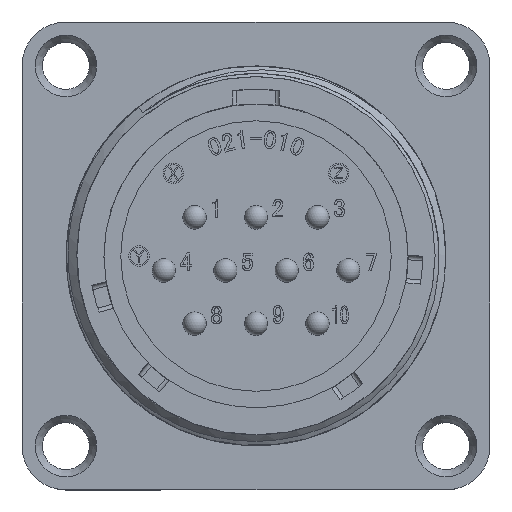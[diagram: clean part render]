
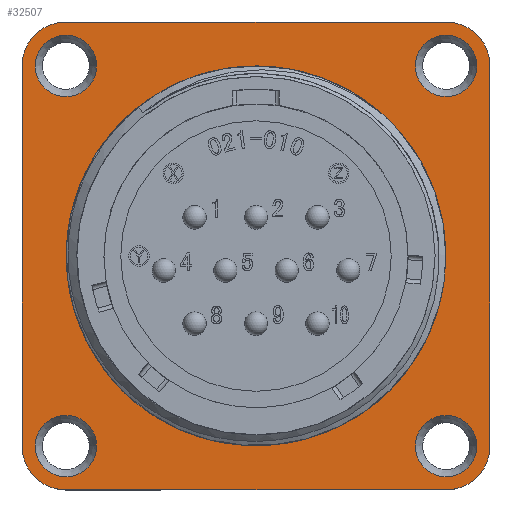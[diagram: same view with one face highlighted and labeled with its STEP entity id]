
A CAD part, top view. The second image highlights one B-rep face of the part: STEP entity #32507.
In plain terms, the highlighted planar face has unit normal (0, 0, 1).
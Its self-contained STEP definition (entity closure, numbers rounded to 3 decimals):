
#185 = CIRCLE ( 'NONE', #2663, 3. ) ;
#1112 = CARTESIAN_POINT ( 'NONE',  ( -13., -13., -10.5 ) ) ;
#1257 = VERTEX_POINT ( 'NONE', #28317 ) ;
#1364 = DIRECTION ( 'NONE',  ( 0., 0., -1. ) ) ;
#1467 = CARTESIAN_POINT ( 'NONE',  ( 13., -16., -10.5 ) ) ;
#1529 = EDGE_CURVE ( 'NONE', #27285, #14510, #185, .T. ) ;
#1585 = DIRECTION ( 'NONE',  ( -1., 0., 0. ) ) ;
#2032 = VERTEX_POINT ( 'NONE', #35766 ) ;
#2663 = AXIS2_PLACEMENT_3D ( 'NONE', #21294, #12852, #29429 ) ;
#3217 = CARTESIAN_POINT ( 'NONE',  ( -13., 16., -10.5 ) ) ;
#3233 = DIRECTION ( 'NONE',  ( 0., 0., -1. ) ) ;
#3867 = VERTEX_POINT ( 'NONE', #34977 ) ;
#3872 = EDGE_LOOP ( 'NONE', ( #29754, #4653, #8002, #19727, #30566, #33266, #35765, #15465 ) ) ;
#3934 = DIRECTION ( 'NONE',  ( 1., 0., 0. ) ) ;
#3962 = CARTESIAN_POINT ( 'NONE',  ( -13., -13., -10.5 ) ) ;
#4367 = EDGE_CURVE ( 'NONE', #6701, #19271, #12572, .T. ) ;
#4386 = VECTOR ( 'NONE', #1585, 1000. ) ;
#4633 = EDGE_CURVE ( 'NONE', #28296, #3867, #33482, .T. ) ;
#4646 = PLANE ( 'NONE',  #26795 ) ;
#4653 = ORIENTED_EDGE ( 'NONE', *, *, #33951, .F. ) ;
#4704 = VERTEX_POINT ( 'NONE', #15621 ) ;
#5344 = CARTESIAN_POINT ( 'NONE',  ( -13., 13., -10.5 ) ) ;
#5839 = CARTESIAN_POINT ( 'NONE',  ( 13., -13., -10.5 ) ) ;
#6683 = CARTESIAN_POINT ( 'NONE',  ( 15.1, -13., -10.5 ) ) ;
#6701 = VERTEX_POINT ( 'NONE', #33202 ) ;
#6998 = EDGE_CURVE ( 'NONE', #15414, #15414, #21335, .T. ) ;
#7082 = DIRECTION ( 'NONE',  ( 1., 0., 0. ) ) ;
#7209 = VECTOR ( 'NONE', #31894, 1000. ) ;
#7244 = CARTESIAN_POINT ( 'NONE',  ( 16., 13., -10.5 ) ) ;
#7481 = EDGE_LOOP ( 'NONE', ( #24831 ) ) ;
#7498 = CARTESIAN_POINT ( 'NONE',  ( -13., -13., -10.5 ) ) ;
#7539 = CARTESIAN_POINT ( 'NONE',  ( -16., 13., -10.5 ) ) ;
#8002 = ORIENTED_EDGE ( 'NONE', *, *, #10460, .F. ) ;
#8095 = CARTESIAN_POINT ( 'NONE',  ( -16., -13., -10.5 ) ) ;
#8254 = VERTEX_POINT ( 'NONE', #9783 ) ;
#8297 = CIRCLE ( 'NONE', #19492, 12.98 ) ;
#9292 = FACE_BOUND ( 'NONE', #31398, .T. ) ;
#9359 = CIRCLE ( 'NONE', #20040, 3. ) ;
#9647 = CARTESIAN_POINT ( 'NONE',  ( 13., -13., -10.5 ) ) ;
#9783 = CARTESIAN_POINT ( 'NONE',  ( 15.1, 13., -10.5 ) ) ;
#9993 = DIRECTION ( 'NONE',  ( 1., 0., 0. ) ) ;
#10460 = EDGE_CURVE ( 'NONE', #3867, #1257, #29786, .T. ) ;
#11055 = DIRECTION ( 'NONE',  ( 0., 0., 1. ) ) ;
#11177 = ORIENTED_EDGE ( 'NONE', *, *, #6998, .F. ) ;
#11859 = CARTESIAN_POINT ( 'NONE',  ( 13., 16., -10.5 ) ) ;
#12169 = CARTESIAN_POINT ( 'NONE',  ( 13., 13., -10.5 ) ) ;
#12502 = CARTESIAN_POINT ( 'NONE',  ( 13., 16., -10.5 ) ) ;
#12572 = CIRCLE ( 'NONE', #14574, 3. ) ;
#12852 = DIRECTION ( 'NONE',  ( 0., 0., -1. ) ) ;
#13343 = AXIS2_PLACEMENT_3D ( 'NONE', #5344, #11055, #31109 ) ;
#14147 = CIRCLE ( 'NONE', #21731, 2.1 ) ;
#14290 = VECTOR ( 'NONE', #33540, 1000. ) ;
#14510 = VERTEX_POINT ( 'NONE', #3217 ) ;
#14574 = AXIS2_PLACEMENT_3D ( 'NONE', #1112, #1364, #7082 ) ;
#14996 = DIRECTION ( 'NONE',  ( 0., 0., 1. ) ) ;
#15414 = VERTEX_POINT ( 'NONE', #6683 ) ;
#15465 = ORIENTED_EDGE ( 'NONE', *, *, #20259, .F. ) ;
#15621 = CARTESIAN_POINT ( 'NONE',  ( 12.98, 0., -10.5 ) ) ;
#15721 = DIRECTION ( 'NONE',  ( 1., 0., 0. ) ) ;
#16450 = EDGE_LOOP ( 'NONE', ( #33632 ) ) ;
#17313 = DIRECTION ( 'NONE',  ( 1., 0., 0. ) ) ;
#17331 = FACE_BOUND ( 'NONE', #23647, .T. ) ;
#17743 = FACE_OUTER_BOUND ( 'NONE', #3872, .T. ) ;
#18438 = DIRECTION ( 'NONE',  ( 0., 0., -1. ) ) ;
#18774 = CIRCLE ( 'NONE', #36236, 2.1 ) ;
#18776 = CARTESIAN_POINT ( 'NONE',  ( -16., 13., -10.5 ) ) ;
#18896 = EDGE_CURVE ( 'NONE', #14510, #34708, #30874, .T. ) ;
#19271 = VERTEX_POINT ( 'NONE', #8095 ) ;
#19492 = AXIS2_PLACEMENT_3D ( 'NONE', #33032, #18438, #15721 ) ;
#19727 = ORIENTED_EDGE ( 'NONE', *, *, #4633, .F. ) ;
#19842 = AXIS2_PLACEMENT_3D ( 'NONE', #9647, #14996, #3934 ) ;
#20040 = AXIS2_PLACEMENT_3D ( 'NONE', #12169, #3233, #23613 ) ;
#20259 = EDGE_CURVE ( 'NONE', #19271, #27285, #28575, .T. ) ;
#20419 = FACE_BOUND ( 'NONE', #16450, .T. ) ;
#21037 = CIRCLE ( 'NONE', #13343, 2.1 ) ;
#21294 = CARTESIAN_POINT ( 'NONE',  ( -13., 13., -10.5 ) ) ;
#21335 = CIRCLE ( 'NONE', #19842, 2.1 ) ;
#21429 = DIRECTION ( 'NONE',  ( 1., 0., 0. ) ) ;
#21546 = DIRECTION ( 'NONE',  ( 0., 0., 1. ) ) ;
#21731 = AXIS2_PLACEMENT_3D ( 'NONE', #3962, #25057, #17313 ) ;
#22208 = FACE_BOUND ( 'NONE', #28750, .T. ) ;
#22743 = DIRECTION ( 'NONE',  ( 0., 0., -1. ) ) ;
#23613 = DIRECTION ( 'NONE',  ( -1., 0., 0. ) ) ;
#23647 = EDGE_LOOP ( 'NONE', ( #27948 ) ) ;
#23936 = LINE ( 'NONE', #1467, #4386 ) ;
#24831 = ORIENTED_EDGE ( 'NONE', *, *, #25458, .T. ) ;
#25057 = DIRECTION ( 'NONE',  ( 0., 0., 1. ) ) ;
#25209 = DIRECTION ( 'NONE',  ( 1., 0., 0. ) ) ;
#25458 = EDGE_CURVE ( 'NONE', #4704, #4704, #8297, .T. ) ;
#26795 = AXIS2_PLACEMENT_3D ( 'NONE', #7498, #21546, #9993 ) ;
#27285 = VERTEX_POINT ( 'NONE', #18776 ) ;
#27948 = ORIENTED_EDGE ( 'NONE', *, *, #29191, .F. ) ;
#28180 = VECTOR ( 'NONE', #21429, 1000. ) ;
#28206 = DIRECTION ( 'NONE',  ( 0., 0., 1. ) ) ;
#28296 = VERTEX_POINT ( 'NONE', #7244 ) ;
#28317 = CARTESIAN_POINT ( 'NONE',  ( 13., -16., -10.5 ) ) ;
#28510 = DIRECTION ( 'NONE',  ( -1., 0., 0. ) ) ;
#28575 = LINE ( 'NONE', #7539, #14290 ) ;
#28750 = EDGE_LOOP ( 'NONE', ( #28973 ) ) ;
#28788 = CARTESIAN_POINT ( 'NONE',  ( 16., 13., -10.5 ) ) ;
#28846 = EDGE_CURVE ( 'NONE', #36760, #36760, #21037, .T. ) ;
#28973 = ORIENTED_EDGE ( 'NONE', *, *, #28846, .F. ) ;
#29191 = EDGE_CURVE ( 'NONE', #8254, #8254, #18774, .T. ) ;
#29429 = DIRECTION ( 'NONE',  ( 1., 0., 0. ) ) ;
#29754 = ORIENTED_EDGE ( 'NONE', *, *, #4367, .F. ) ;
#29786 = CIRCLE ( 'NONE', #30878, 3. ) ;
#29952 = CARTESIAN_POINT ( 'NONE',  ( -10.9, 13., -10.5 ) ) ;
#30566 = ORIENTED_EDGE ( 'NONE', *, *, #31253, .F. ) ;
#30810 = CARTESIAN_POINT ( 'NONE',  ( 13., 13., -10.5 ) ) ;
#30874 = LINE ( 'NONE', #12502, #28180 ) ;
#30878 = AXIS2_PLACEMENT_3D ( 'NONE', #5839, #22743, #28510 ) ;
#31109 = DIRECTION ( 'NONE',  ( 1., 0., 0. ) ) ;
#31253 = EDGE_CURVE ( 'NONE', #34708, #28296, #9359, .T. ) ;
#31398 = EDGE_LOOP ( 'NONE', ( #11177 ) ) ;
#31894 = DIRECTION ( 'NONE',  ( 0., -1., 0. ) ) ;
#32507 = ADVANCED_FACE ( 'NONE', ( #20419, #9292, #17331, #22208, #35133, #17743 ), #4646, .T. ) ;
#33032 = CARTESIAN_POINT ( 'NONE',  ( 0., 0., -10.5 ) ) ;
#33202 = CARTESIAN_POINT ( 'NONE',  ( -13., -16., -10.5 ) ) ;
#33266 = ORIENTED_EDGE ( 'NONE', *, *, #18896, .F. ) ;
#33482 = LINE ( 'NONE', #28788, #7209 ) ;
#33540 = DIRECTION ( 'NONE',  ( 0., 1., 0. ) ) ;
#33632 = ORIENTED_EDGE ( 'NONE', *, *, #33989, .F. ) ;
#33951 = EDGE_CURVE ( 'NONE', #1257, #6701, #23936, .T. ) ;
#33989 = EDGE_CURVE ( 'NONE', #2032, #2032, #14147, .T. ) ;
#34708 = VERTEX_POINT ( 'NONE', #11859 ) ;
#34977 = CARTESIAN_POINT ( 'NONE',  ( 16., -13., -10.5 ) ) ;
#35133 = FACE_BOUND ( 'NONE', #7481, .T. ) ;
#35765 = ORIENTED_EDGE ( 'NONE', *, *, #1529, .F. ) ;
#35766 = CARTESIAN_POINT ( 'NONE',  ( -10.9, -13., -10.5 ) ) ;
#36236 = AXIS2_PLACEMENT_3D ( 'NONE', #30810, #28206, #25209 ) ;
#36760 = VERTEX_POINT ( 'NONE', #29952 ) ;
